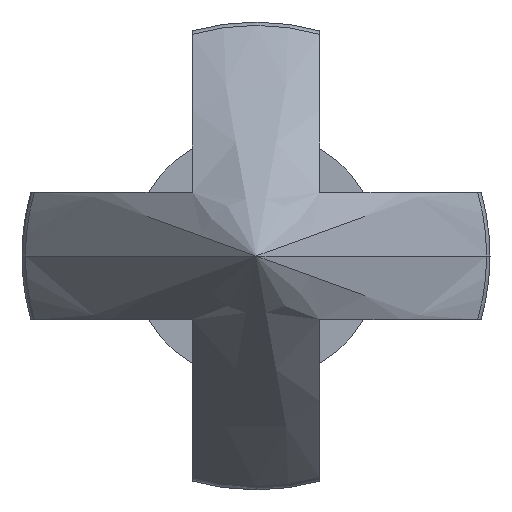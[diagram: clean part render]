
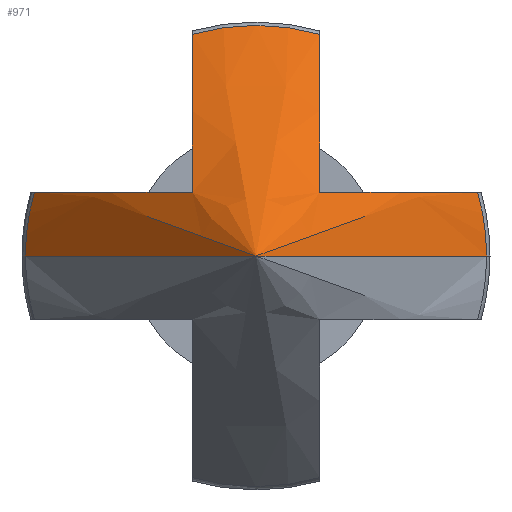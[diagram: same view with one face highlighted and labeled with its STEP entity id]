
A CAD part, front view. The second image highlights one B-rep face of the part: STEP entity #971.
In plain terms, the highlighted conical face has half-angle 38.223 degrees and reference radius 787.567 mm.
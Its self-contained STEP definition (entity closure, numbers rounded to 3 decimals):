
#2 = VERTEX_POINT ( 'NONE', #260 ) ;
#5 = ORIENTED_EDGE ( 'NONE', *, *, #11, .T. ) ;
#6 = CARTESIAN_POINT ( 'NONE',  ( -9.044, -25.945, 2. ) ) ;
#11 = EDGE_CURVE ( 'NONE', #2, #939, #914, .T. ) ;
#25 = VERTEX_POINT ( 'NONE', #595 ) ;
#30 = CARTESIAN_POINT ( 'NONE',  ( -14.415, -24.02, 0. ) ) ;
#61 = CARTESIAN_POINT ( 'NONE',  ( -16.415, -29.204, 2.463 ) ) ;
#65 = AXIS2_PLACEMENT_3D ( 'NONE', #944, #515, #1128 ) ;
#68 = CIRCLE ( 'NONE', #617, 7.238 ) ;
#80 = CARTESIAN_POINT ( 'NONE',  ( -20.581, -24.985, 2. ) ) ;
#83 = CIRCLE ( 'NONE', #882, 7.238 ) ;
#111 = CARTESIAN_POINT ( 'NONE',  ( -11.521, -28.752, 2. ) ) ;
#113 = VERTEX_POINT ( 'NONE', #489 ) ;
#137 = DIRECTION ( 'NONE',  ( -1., 0., 0. ) ) ;
#139 = EDGE_CURVE ( 'NONE', #113, #1087, #68, .T. ) ;
#149 = CARTESIAN_POINT ( 'NONE',  ( -16.415, -25.945, 5.371 ) ) ;
#174 = B_SPLINE_CURVE_WITH_KNOTS ( 'NONE', 3,
 ( #521, #611, #340, #968, #445, #876, #80, #880 ),
 .UNSPECIFIED., .F., .F.,
 ( 4, 2, 2, 4 ),
 ( 0.015, 0.016, 0.018, 0.022 ),
 .UNSPECIFIED. ) ;
#187 = EDGE_CURVE ( 'NONE', #25, #939, #419, .T. ) ;
#188 = CARTESIAN_POINT ( 'NONE',  ( -12.415, -24.02, 6.956 ) ) ;
#197 = CARTESIAN_POINT ( 'NONE',  ( -12.415, -29.203, 2.464 ) ) ;
#224 = ORIENTED_EDGE ( 'NONE', *, *, #819, .T. ) ;
#235 = CARTESIAN_POINT ( 'NONE',  ( -16.415, -24.02, 6.956 ) ) ;
#252 = CARTESIAN_POINT ( 'NONE',  ( -16.415, -28.752, 2.894 ) ) ;
#260 = CARTESIAN_POINT ( 'NONE',  ( -21.371, -24.02, 2. ) ) ;
#268 = CARTESIAN_POINT ( 'NONE',  ( -16.415, -29.619, 2. ) ) ;
#273 = ORIENTED_EDGE ( 'NONE', *, *, #187, .F. ) ;
#302 = DIRECTION ( 'NONE',  ( 1., 0., 0. ) ) ;
#305 = ORIENTED_EDGE ( 'NONE', *, *, #727, .T. ) ;
#309 = VECTOR ( 'NONE', #1148, 1000. ) ;
#311 = CARTESIAN_POINT ( 'NONE',  ( -7.177, -24.02, 0. ) ) ;
#317 = VERTEX_POINT ( 'NONE', #650 ) ;
#340 = CARTESIAN_POINT ( 'NONE',  ( -17.309, -28.752, 2. ) ) ;
#373 = CARTESIAN_POINT ( 'NONE',  ( -12.415, -28.752, 2.894 ) ) ;
#419 = LINE ( 'NONE', #872, #710 ) ;
#420 = CONICAL_SURFACE ( 'NONE', #1074, 787.567, 0.667 ) ;
#422 = CARTESIAN_POINT ( 'NONE',  ( -14.415, -24.02, 0. ) ) ;
#431 = B_SPLINE_CURVE_WITH_KNOTS ( 'NONE', 3,
 ( #632, #197, #373, #896, #718, #1088, #707, #188 ),
 .UNSPECIFIED., .F., .F.,
 ( 4, 2, 2, 4 ),
 ( 0.015, 0.016, 0.018, 0.022 ),
 .UNSPECIFIED. ) ;
#445 = CARTESIAN_POINT ( 'NONE',  ( -18.565, -27.365, 2. ) ) ;
#463 = CARTESIAN_POINT ( 'NONE',  ( -14.415, -33.211, 0. ) ) ;
#489 = CARTESIAN_POINT ( 'NONE',  ( -12.415, -24.02, 6.956 ) ) ;
#500 = CARTESIAN_POINT ( 'NONE',  ( -16.415, -24.984, 6.166 ) ) ;
#515 = DIRECTION ( 'NONE',  ( 0., -1., 0. ) ) ;
#521 = CARTESIAN_POINT ( 'NONE',  ( -16.415, -29.619, 2. ) ) ;
#526 = DIRECTION ( 'NONE',  ( 1., 0., 0. ) ) ;
#538 = EDGE_CURVE ( 'NONE', #728, #2, #174, .T. ) ;
#542 = ORIENTED_EDGE ( 'NONE', *, *, #636, .T. ) ;
#595 = CARTESIAN_POINT ( 'NONE',  ( -14.415, -33.211, 0. ) ) ;
#611 = CARTESIAN_POINT ( 'NONE',  ( -16.879, -29.203, 2. ) ) ;
#617 = AXIS2_PLACEMENT_3D ( 'NONE', #30, #928, #302 ) ;
#624 = LINE ( 'NONE', #463, #309 ) ;
#632 = CARTESIAN_POINT ( 'NONE',  ( -12.415, -29.619, 2. ) ) ;
#636 = EDGE_CURVE ( 'NONE', #317, #113, #431, .T. ) ;
#637 = VERTEX_POINT ( 'NONE', #808 ) ;
#638 = ORIENTED_EDGE ( 'NONE', *, *, #139, .T. ) ;
#639 = EDGE_LOOP ( 'NONE', ( #273, #224, #305, #862, #542, #638, #809, #993, #5 ) ) ;
#646 = FACE_OUTER_BOUND ( 'NONE', #639, .T. ) ;
#650 = CARTESIAN_POINT ( 'NONE',  ( -12.415, -29.619, 2. ) ) ;
#691 = B_SPLINE_CURVE_WITH_KNOTS ( 'NONE', 3,
 ( #235, #500, #149, #1046, #860, #252, #61, #695 ),
 .UNSPECIFIED., .F., .F.,
 ( 4, 2, 2, 4 ),
 ( 0.014, 0.017, 0.019, 0.021 ),
 .UNSPECIFIED. ) ;
#695 = CARTESIAN_POINT ( 'NONE',  ( -16.415, -29.619, 2. ) ) ;
#707 = CARTESIAN_POINT ( 'NONE',  ( -12.415, -24.985, 6.166 ) ) ;
#710 = VECTOR ( 'NONE', #1122, 1000. ) ;
#718 = CARTESIAN_POINT ( 'NONE',  ( -12.415, -27.365, 4.15 ) ) ;
#727 = EDGE_CURVE ( 'NONE', #994, #637, #83, .T. ) ;
#728 = VERTEX_POINT ( 'NONE', #268 ) ;
#731 = CARTESIAN_POINT ( 'NONE',  ( -21.653, -24.02, 0. ) ) ;
#796 = CARTESIAN_POINT ( 'NONE',  ( -7.459, -24.02, 2. ) ) ;
#808 = CARTESIAN_POINT ( 'NONE',  ( -7.459, -24.02, 2. ) ) ;
#809 = ORIENTED_EDGE ( 'NONE', *, *, #1076, .T. ) ;
#817 = EDGE_CURVE ( 'NONE', #637, #317, #899, .T. ) ;
#819 = EDGE_CURVE ( 'NONE', #25, #994, #624, .T. ) ;
#821 = DIRECTION ( 'NONE',  ( 0., 1., 0. ) ) ;
#852 = CARTESIAN_POINT ( 'NONE',  ( -16.415, -24.02, 6.956 ) ) ;
#860 = CARTESIAN_POINT ( 'NONE',  ( -16.415, -27.833, 3.74 ) ) ;
#862 = ORIENTED_EDGE ( 'NONE', *, *, #817, .T. ) ;
#872 = CARTESIAN_POINT ( 'NONE',  ( -14.415, -33.211, 0. ) ) ;
#876 = CARTESIAN_POINT ( 'NONE',  ( -19.785, -25.946, 2. ) ) ;
#880 = CARTESIAN_POINT ( 'NONE',  ( -21.371, -24.02, 2. ) ) ;
#882 = AXIS2_PLACEMENT_3D ( 'NONE', #422, #1047, #526 ) ;
#884 = CARTESIAN_POINT ( 'NONE',  ( -10.264, -27.364, 2. ) ) ;
#896 = CARTESIAN_POINT ( 'NONE',  ( -12.415, -27.835, 3.738 ) ) ;
#899 = B_SPLINE_CURVE_WITH_KNOTS ( 'NONE', 3,
 ( #796, #1064, #6, #884, #980, #111, #1084, #1079 ),
 .UNSPECIFIED., .F., .F.,
 ( 4, 2, 2, 4 ),
 ( 0.014, 0.017, 0.019, 0.021 ),
 .UNSPECIFIED. ) ;
#914 = CIRCLE ( 'NONE', #65, 7.238 ) ;
#925 = CARTESIAN_POINT ( 'NONE',  ( -14.415, 966.789, 0. ) ) ;
#928 = DIRECTION ( 'NONE',  ( 0., -1., 0. ) ) ;
#939 = VERTEX_POINT ( 'NONE', #731 ) ;
#944 = CARTESIAN_POINT ( 'NONE',  ( -14.415, -24.02, 0. ) ) ;
#968 = CARTESIAN_POINT ( 'NONE',  ( -18.153, -27.835, 2. ) ) ;
#971 = ADVANCED_FACE ( 'NONE', ( #646 ), #420, .T. ) ;
#980 = CARTESIAN_POINT ( 'NONE',  ( -10.675, -27.833, 2. ) ) ;
#993 = ORIENTED_EDGE ( 'NONE', *, *, #538, .T. ) ;
#994 = VERTEX_POINT ( 'NONE', #311 ) ;
#1046 = CARTESIAN_POINT ( 'NONE',  ( -16.415, -27.364, 4.151 ) ) ;
#1047 = DIRECTION ( 'NONE',  ( 0., -1., 0. ) ) ;
#1064 = CARTESIAN_POINT ( 'NONE',  ( -8.249, -24.984, 2. ) ) ;
#1074 = AXIS2_PLACEMENT_3D ( 'NONE', #925, #821, #137 ) ;
#1076 = EDGE_CURVE ( 'NONE', #1087, #728, #691, .T. ) ;
#1079 = CARTESIAN_POINT ( 'NONE',  ( -12.415, -29.619, 2. ) ) ;
#1084 = CARTESIAN_POINT ( 'NONE',  ( -11.952, -29.204, 2. ) ) ;
#1087 = VERTEX_POINT ( 'NONE', #852 ) ;
#1088 = CARTESIAN_POINT ( 'NONE',  ( -12.415, -25.946, 5.37 ) ) ;
#1122 = DIRECTION ( 'NONE',  ( -0.619, 0.786, 0. ) ) ;
#1128 = DIRECTION ( 'NONE',  ( 1., 0., 0. ) ) ;
#1148 = DIRECTION ( 'NONE',  ( 0.619, 0.786, 0. ) ) ;
